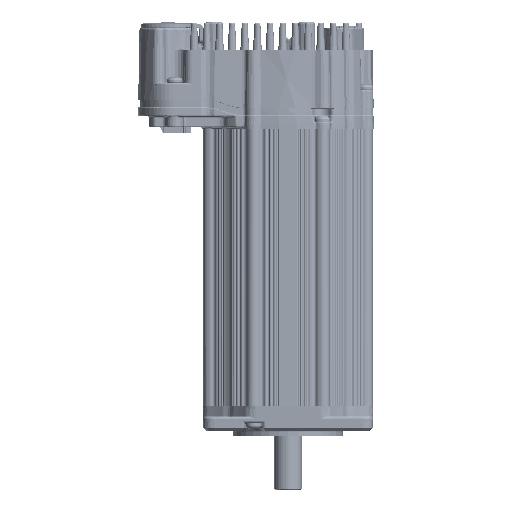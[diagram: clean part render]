
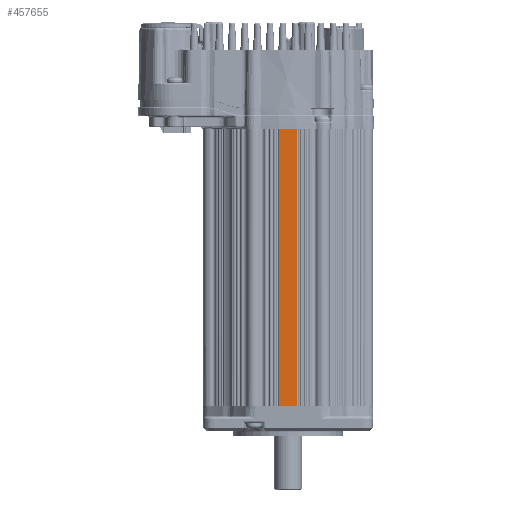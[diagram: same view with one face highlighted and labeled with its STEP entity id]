
A CAD part, front view. The second image highlights one B-rep face of the part: STEP entity #457655.
In plain terms, the highlighted planar face has unit normal (0, -1, 0).
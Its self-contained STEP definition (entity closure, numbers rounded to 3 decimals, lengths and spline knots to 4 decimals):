
#39343 = DIRECTION ( 'NONE',  ( 1., 0., 0. ) ) ;
#46265 = PLANE ( 'NONE',  #467121 ) ;
#46396 = CARTESIAN_POINT ( 'NONE',  ( -1.1581, -1.1581, -4.1197 ) ) ;
#76977 = CARTESIAN_POINT ( 'NONE',  ( 0.128, -1.1581, -4.1197 ) ) ;
#97921 = VERTEX_POINT ( 'NONE', #76977 ) ;
#136224 = VERTEX_POINT ( 'NONE', #458041 ) ;
#136504 = DIRECTION ( 'NONE',  ( 1., 0., 0. ) ) ;
#150403 = CARTESIAN_POINT ( 'NONE',  ( -0.128, -1.1581, -4.1197 ) ) ;
#154587 = VECTOR ( 'NONE', #237711, 39.3701 ) ;
#162720 = LINE ( 'NONE', #46396, #154587 ) ;
#163343 = ORIENTED_EDGE ( 'NONE', *, *, #396721, .T. ) ;
#177649 = ORIENTED_EDGE ( 'NONE', *, *, #323587, .T. ) ;
#191732 = LINE ( 'NONE', #150403, #344310 ) ;
#203264 = ORIENTED_EDGE ( 'NONE', *, *, #286682, .F. ) ;
#234391 = EDGE_CURVE ( 'NONE', #381628, #436896, #395986, .T. ) ;
#235764 = CARTESIAN_POINT ( 'NONE',  ( -1.1581, -1.1581, -0.3307 ) ) ;
#237711 = DIRECTION ( 'NONE',  ( 1., 0., 0. ) ) ;
#241053 = DIRECTION ( 'NONE',  ( 0., 0., 1. ) ) ;
#245191 = DIRECTION ( 'NONE',  ( 0., -1., 0. ) ) ;
#248557 = EDGE_LOOP ( 'NONE', ( #163343, #412459, #203264, #177649 ) ) ;
#281653 = VECTOR ( 'NONE', #241053, 39.3701 ) ;
#282386 = CARTESIAN_POINT ( 'NONE',  ( 0.128, -1.1581, -4.1197 ) ) ;
#286682 = EDGE_CURVE ( 'NONE', #136224, #381628, #191732, .T. ) ;
#290088 = CARTESIAN_POINT ( 'NONE',  ( -0.128, -1.1581, -0.3307 ) ) ;
#291651 = FACE_OUTER_BOUND ( 'NONE', #248557, .T. ) ;
#323587 = EDGE_CURVE ( 'NONE', #136224, #97921, #162720, .T. ) ;
#344310 = VECTOR ( 'NONE', #457936, 39.3701 ) ;
#349866 = VECTOR ( 'NONE', #39343, 39.3701 ) ;
#357246 = CARTESIAN_POINT ( 'NONE',  ( 0.128, -1.1581, -0.3307 ) ) ;
#381628 = VERTEX_POINT ( 'NONE', #290088 ) ;
#395986 = LINE ( 'NONE', #235764, #349866 ) ;
#396721 = EDGE_CURVE ( 'NONE', #97921, #436896, #476126, .T. ) ;
#412459 = ORIENTED_EDGE ( 'NONE', *, *, #234391, .F. ) ;
#436896 = VERTEX_POINT ( 'NONE', #357246 ) ;
#457655 = ADVANCED_FACE ( 'NONE', ( #291651 ), #46265, .T. ) ;
#457936 = DIRECTION ( 'NONE',  ( 0., 0., 1. ) ) ;
#458041 = CARTESIAN_POINT ( 'NONE',  ( -0.128, -1.1581, -4.1197 ) ) ;
#467121 = AXIS2_PLACEMENT_3D ( 'NONE', #485376, #245191, #136504 ) ;
#476126 = LINE ( 'NONE', #282386, #281653 ) ;
#485376 = CARTESIAN_POINT ( 'NONE',  ( -1.1581, -1.1581, -4.1197 ) ) ;
